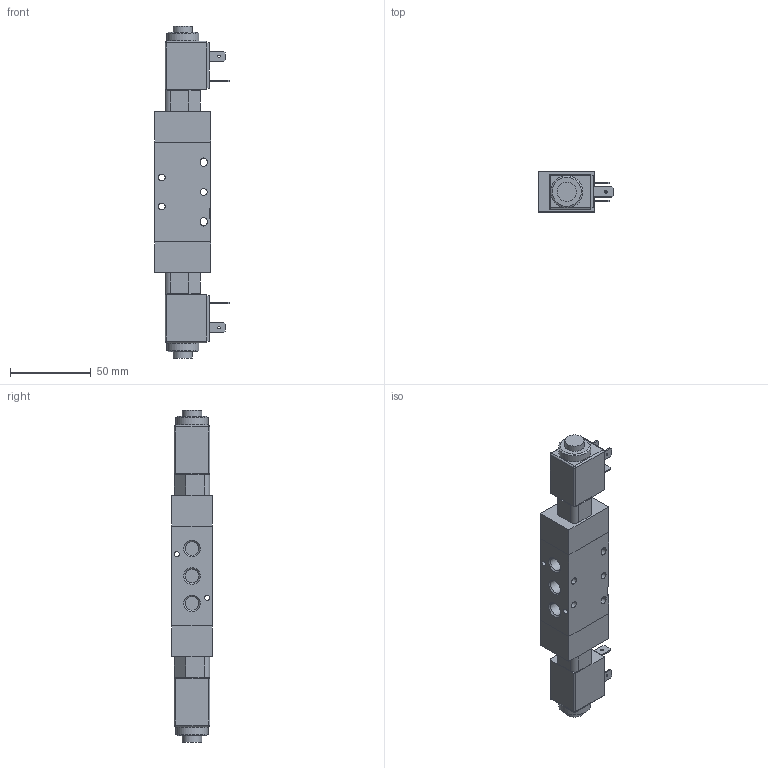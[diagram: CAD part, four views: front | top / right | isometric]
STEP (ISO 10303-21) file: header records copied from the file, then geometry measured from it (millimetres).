
FILE_DESCRIPTION((''),'2;1');
FILE_NAME('K:\A-Roberto\_Inventor\Rev.Librerie\TECNOECO\T488_52_0_0_##.stp','2006-10-06T08:47:42',('rivolro1'),(''),'Autodesk Inventor 11','Autodesk Inventor 11','');
FILE_SCHEMA(('AUTOMOTIVE_DESIGN { 1 0 10303 214 1 1 1 1 }'));
Length unit declared in the file: millimetre
Products named in the file (3): T488_52_0_0_##; T488_52_0_0; MB
Assembly tree (3 placements, depth 2):
  T488_52_0_0_##
    T488_52_0_0
    MB  x2
Bounding box: 46.5 x 25 x 206 mm (x, y, z)
Volume: 133512 mm3; surface area: 34153.5 mm2
Topology: 3 solids, 3 shells, 214 faces, 490 edges, 317 vertices
Faces by surface type: plane 109, bspline 63, cylinder 36, sphere 4, cone 2
Full cylindrical faces by diameter (mm): 4.2 x3, 7.4 x1, 7.8 x1, 8 x1, 8.2 x2, 9.8 x1, 10.1 x1, 10.2 x2, 10.7 x1, 12 x1, 13.5 x1, 16.2 x2, 20 x1
Entity records: 4821 total; most frequent: CARTESIAN_POINT 1372, DIRECTION 649, ORIENTED_EDGE 618, EDGE_CURVE 309, EDGE_LOOP 269, VERTEX_POINT 232, AXIS2_PLACEMENT_3D 227, VECTOR 195
